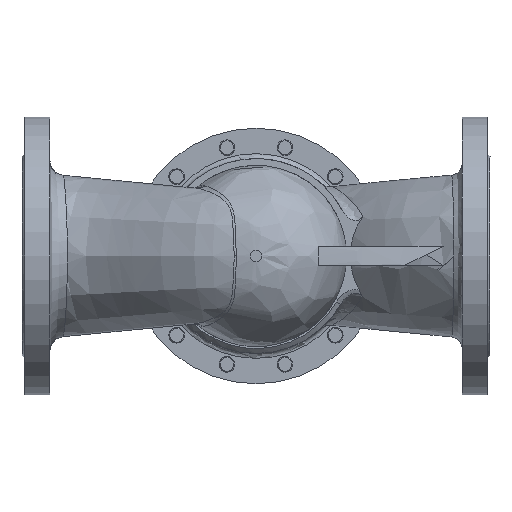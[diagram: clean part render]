
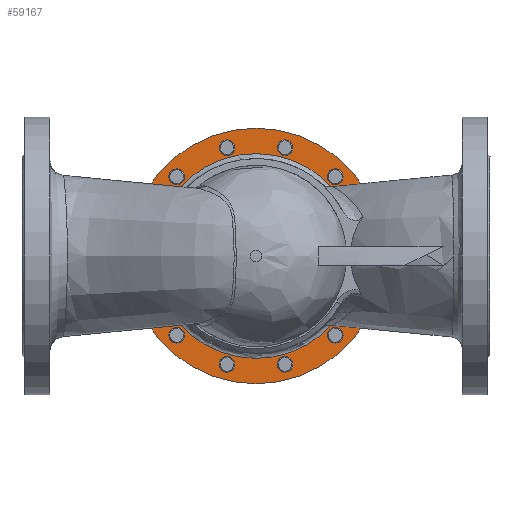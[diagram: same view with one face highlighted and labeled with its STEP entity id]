
A CAD part, front view. The second image highlights one B-rep face of the part: STEP entity #59167.
In plain terms, the highlighted planar face has unit normal (0, -1, 0).
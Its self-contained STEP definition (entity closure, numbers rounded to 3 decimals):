
#59167=ADVANCED_FACE('',(#62060,#62062,#62064,#62066,#62068,#62070,#62072,#62074,
#62076,#62078,#62080,#62082,#62084,#62086),#62088,.F.);
#62060=FACE_BOUND('',#62061,.T.);
#62061=EDGE_LOOP('',(#65514));
#62062=FACE_BOUND('',#62063,.T.);
#62063=EDGE_LOOP('',(#65515));
#62064=FACE_BOUND('',#62065,.T.);
#62065=EDGE_LOOP('',(#65516));
#62066=FACE_BOUND('',#62067,.T.);
#62067=EDGE_LOOP('',(#65517));
#62068=FACE_BOUND('',#62069,.T.);
#62069=EDGE_LOOP('',(#65518));
#62070=FACE_BOUND('',#62071,.T.);
#62071=EDGE_LOOP('',(#65519));
#62072=FACE_BOUND('',#62073,.T.);
#62073=EDGE_LOOP('',(#65520));
#62074=FACE_BOUND('',#62075,.T.);
#62075=EDGE_LOOP('',(#65521));
#62076=FACE_BOUND('',#62077,.T.);
#62077=EDGE_LOOP('',(#65522));
#62078=FACE_BOUND('',#62079,.T.);
#62079=EDGE_LOOP('',(#65523));
#62080=FACE_BOUND('',#62081,.T.);
#62081=EDGE_LOOP('',(#65524));
#62082=FACE_BOUND('',#62083,.T.);
#62083=EDGE_LOOP('',(#65525));
#62084=FACE_BOUND('',#62085,.T.);
#62085=EDGE_LOOP('',(#65526));
#62086=FACE_OUTER_BOUND('',#62087,.T.);
#62087=EDGE_LOOP('',(#65527));
#62088=PLANE('',#62089);
#62089=AXIS2_PLACEMENT_3D('',#62090,#62091,#62092);
#62090=CARTESIAN_POINT('',(0.,135.,0.));
#62091=DIRECTION('',(0.,1.,0.));
#62092=DIRECTION('',(1.,0.,0.));
#65514=ORIENTED_EDGE('',*,*,#65973,.T.);
#65515=ORIENTED_EDGE('',*,*,#66020,.T.);
#65516=ORIENTED_EDGE('',*,*,#66017,.T.);
#65517=ORIENTED_EDGE('',*,*,#66014,.T.);
#65518=ORIENTED_EDGE('',*,*,#66011,.T.);
#65519=ORIENTED_EDGE('',*,*,#66008,.T.);
#65520=ORIENTED_EDGE('',*,*,#66005,.T.);
#65521=ORIENTED_EDGE('',*,*,#66002,.T.);
#65522=ORIENTED_EDGE('',*,*,#65999,.T.);
#65523=ORIENTED_EDGE('',*,*,#65996,.T.);
#65524=ORIENTED_EDGE('',*,*,#65993,.T.);
#65525=ORIENTED_EDGE('',*,*,#65990,.T.);
#65526=ORIENTED_EDGE('',*,*,#65987,.T.);
#65527=ORIENTED_EDGE('',*,*,#66021,.F.);
#65973=EDGE_CURVE('',#66418,#66418,#66420,.T.);
#65987=EDGE_CURVE('',#66440,#66440,#66444,.T.);
#65990=EDGE_CURVE('',#66445,#66445,#66449,.T.);
#65993=EDGE_CURVE('',#66450,#66450,#66454,.T.);
#65996=EDGE_CURVE('',#66455,#66455,#66459,.T.);
#65999=EDGE_CURVE('',#66460,#66460,#66464,.T.);
#66002=EDGE_CURVE('',#66465,#66465,#66469,.T.);
#66005=EDGE_CURVE('',#66470,#66470,#66474,.T.);
#66008=EDGE_CURVE('',#66475,#66475,#66479,.T.);
#66011=EDGE_CURVE('',#66480,#66480,#66484,.T.);
#66014=EDGE_CURVE('',#66485,#66485,#66489,.T.);
#66017=EDGE_CURVE('',#66490,#66490,#66494,.T.);
#66020=EDGE_CURVE('',#66495,#66495,#66499,.T.);
#66021=EDGE_CURVE('',#66500,#66500,#66501,.T.);
#66418=VERTEX_POINT('',#68815);
#66420=CIRCLE('',#68820,105.);
#66440=VERTEX_POINT('',#69154);
#66444=CIRCLE('',#69163,7.25);
#66445=VERTEX_POINT('',#69167);
#66449=CIRCLE('',#69176,7.25);
#66450=VERTEX_POINT('',#69180);
#66454=CIRCLE('',#69189,7.25);
#66455=VERTEX_POINT('',#69193);
#66459=CIRCLE('',#69202,7.25);
#66460=VERTEX_POINT('',#69206);
#66464=CIRCLE('',#69215,7.25);
#66465=VERTEX_POINT('',#69219);
#66469=CIRCLE('',#69228,7.25);
#66470=VERTEX_POINT('',#69232);
#66474=CIRCLE('',#69241,7.25);
#66475=VERTEX_POINT('',#69245);
#66479=CIRCLE('',#69254,7.25);
#66480=VERTEX_POINT('',#69258);
#66484=CIRCLE('',#69267,7.25);
#66485=VERTEX_POINT('',#69271);
#66489=CIRCLE('',#69280,7.25);
#66490=VERTEX_POINT('',#69284);
#66494=CIRCLE('',#69293,7.25);
#66495=VERTEX_POINT('',#69297);
#66499=CIRCLE('',#69306,7.25);
#66500=VERTEX_POINT('',#69310);
#66501=CIRCLE('',#69311,131.);
#68815=CARTESIAN_POINT('',(104.997,135.,-0.782));
#68820=AXIS2_PLACEMENT_3D('',#68821,#68822,#68823);
#68821=CARTESIAN_POINT('',(0.,135.,0.));
#68822=DIRECTION('',(0.,1.,0.));
#68823=DIRECTION('',(-1.,0.,-0.));
#69154=CARTESIAN_POINT('',(-104.803,135.,26.139));
#69163=AXIS2_PLACEMENT_3D('',#69164,#69165,#69166);
#69164=CARTESIAN_POINT('',(-111.081,135.,29.764));
#69165=DIRECTION('',(0.,1.,0.));
#69166=DIRECTION('',(0.866,0.,-0.5));
#69167=CARTESIAN_POINT('',(-77.692,135.,75.039));
#69176=AXIS2_PLACEMENT_3D('',#69177,#69178,#69179);
#69177=CARTESIAN_POINT('',(-81.317,135.,81.317));
#69178=DIRECTION('',(0.,1.,0.));
#69179=DIRECTION('',(0.5,0.,-0.866));
#69180=CARTESIAN_POINT('',(-29.764,135.,103.831));
#69189=AXIS2_PLACEMENT_3D('',#69190,#69191,#69192);
#69190=CARTESIAN_POINT('',(-29.764,135.,111.081));
#69191=DIRECTION('',(0.,1.,0.));
#69192=DIRECTION('',(0.,0.,-1.));
#69193=CARTESIAN_POINT('',(26.139,135.,104.803));
#69202=AXIS2_PLACEMENT_3D('',#69203,#69204,#69205);
#69203=CARTESIAN_POINT('',(29.764,135.,111.081));
#69204=DIRECTION('',(0.,1.,0.));
#69205=DIRECTION('',(-0.5,0.,-0.866));
#69206=CARTESIAN_POINT('',(75.039,135.,77.692));
#69215=AXIS2_PLACEMENT_3D('',#69216,#69217,#69218);
#69216=CARTESIAN_POINT('',(81.317,135.,81.317));
#69217=DIRECTION('',(0.,1.,0.));
#69218=DIRECTION('',(-0.866,0.,-0.5));
#69219=CARTESIAN_POINT('',(103.831,135.,29.764));
#69228=AXIS2_PLACEMENT_3D('',#69229,#69230,#69231);
#69229=CARTESIAN_POINT('',(111.081,135.,29.764));
#69230=DIRECTION('',(0.,1.,0.));
#69231=DIRECTION('',(-1.,0.,-0.));
#69232=CARTESIAN_POINT('',(104.803,135.,-26.139));
#69241=AXIS2_PLACEMENT_3D('',#69242,#69243,#69244);
#69242=CARTESIAN_POINT('',(111.081,135.,-29.764));
#69243=DIRECTION('',(0.,1.,0.));
#69244=DIRECTION('',(-0.866,-0.,0.5));
#69245=CARTESIAN_POINT('',(77.692,135.,-75.039));
#69254=AXIS2_PLACEMENT_3D('',#69255,#69256,#69257);
#69255=CARTESIAN_POINT('',(81.317,135.,-81.317));
#69256=DIRECTION('',(0.,1.,0.));
#69257=DIRECTION('',(-0.5,-0.,0.866));
#69258=CARTESIAN_POINT('',(29.764,135.,-103.831));
#69267=AXIS2_PLACEMENT_3D('',#69268,#69269,#69270);
#69268=CARTESIAN_POINT('',(29.764,135.,-111.081));
#69269=DIRECTION('',(0.,1.,0.));
#69270=DIRECTION('',(0.,0.,1.));
#69271=CARTESIAN_POINT('',(-26.139,135.,-104.803));
#69280=AXIS2_PLACEMENT_3D('',#69281,#69282,#69283);
#69281=CARTESIAN_POINT('',(-29.764,135.,-111.081));
#69282=DIRECTION('',(0.,1.,0.));
#69283=DIRECTION('',(0.5,0.,0.866));
#69284=CARTESIAN_POINT('',(-75.039,135.,-77.692));
#69293=AXIS2_PLACEMENT_3D('',#69294,#69295,#69296);
#69294=CARTESIAN_POINT('',(-81.317,135.,-81.317));
#69295=DIRECTION('',(0.,1.,0.));
#69296=DIRECTION('',(0.866,0.,0.5));
#69297=CARTESIAN_POINT('',(-103.831,135.,-29.764));
#69306=AXIS2_PLACEMENT_3D('',#69307,#69308,#69309);
#69307=CARTESIAN_POINT('',(-111.081,135.,-29.764));
#69308=DIRECTION('',(0.,1.,0.));
#69309=DIRECTION('',(1.,0.,0.));
#69310=CARTESIAN_POINT('',(131.,135.,0.));
#69311=AXIS2_PLACEMENT_3D('',#69312,#69313,#69314);
#69312=CARTESIAN_POINT('',(0.,135.,0.));
#69313=DIRECTION('',(0.,1.,0.));
#69314=DIRECTION('',(1.,0.,0.));
